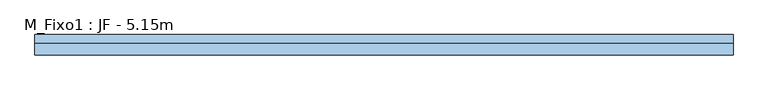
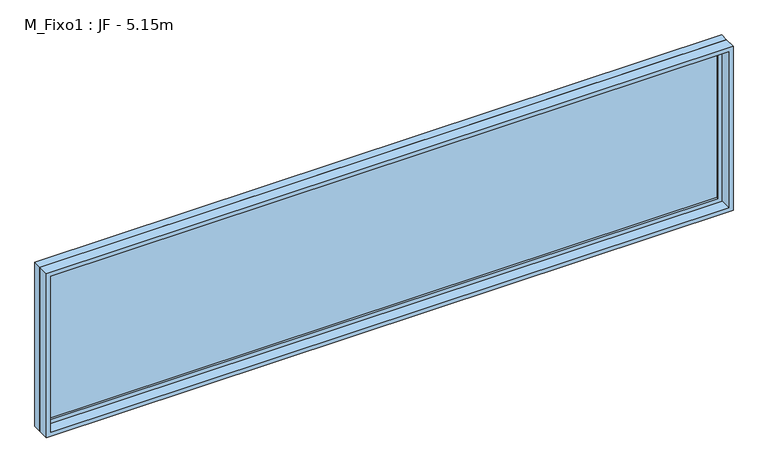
"""IFC4 building model written with IfcOpenShell, lengths in millimetres: window geometry, M_Fixo1 : JF - 5.15m."""

from ifc_helpers import new_model, si_unit, frame, origin, place, context, project, spatial, polyline, outline, extrude, source, transform, mapped, element, save


def m_fixo1_jf_5_15m_51e2bce7(model_context):
    return source(origin(), model_context, "Body", "SweptSolid", [
        extrude(outline(polyline([(-2512.0, 53.0), (2512.0, 53.0), (2512.0, 41.0), (-2512.0, 41.0), (-2512.0, 53.0)])), frame((0.0, 0.0, 978.0), z_axis=(0.0, 0.0, 1.0), x_axis=(1.0, 0.0, 0.0)), (0.0, 0.0, 1.0), 1174.0),
        extrude(outline(polyline([(2196.0, -2556.0), (934.0, -2556.0), (934.0, 2556.0), (2196.0, 2556.0), (2196.0, -2556.0)]), holes=[polyline([(2152.0, -2512.0), (2152.0, 2512.0), (978.0, 2512.0), (978.0, -2512.0), (2152.0, -2512.0)])]), frame((0.0, 25.0, 0.0), z_axis=(0.0, 1.0, 0.0), x_axis=(0.0, 0.0, 1.0)), (0.0, 0.0, 1.0), 44.0),
        extrude(outline(polyline([(2215.0, -2575.0), (915.0, -2575.0), (915.0, 2575.0), (2215.0, 2575.0), (2215.0, -2575.0)]), holes=[polyline([(2196.0, -2556.0), (2196.0, 2556.0), (934.0, 2556.0), (934.0, -2556.0), (2196.0, -2556.0)])]), frame((0.0, 25.0, 0.0), z_axis=(0.0, 1.0, 0.0), x_axis=(0.0, 0.0, 1.0)), (0.0, 0.0, 1.0), 63.0),
        extrude(outline(polyline([(2215.0, -2575.0), (915.0, -2575.0), (915.0, 2575.0), (2215.0, 2575.0), (2215.0, -2575.0)]), holes=[polyline([(2183.0, -2543.0), (2183.0, 2543.0), (947.0, 2543.0), (947.0, -2543.0), (2183.0, -2543.0)])]), frame((0.0, -62.0, 0.0), z_axis=(0.0, 1.0, 0.0), x_axis=(0.0, 0.0, 1.0)), (0.0, 0.0, 1.0), 87.0),
    ])


if __name__ == "__main__":
    model = new_model("IFC4")
    model_context = context("Model", 3, world=origin())
    ifc_project = project(units=[si_unit("LENGTHUNIT", "METRE", prefix="MILLI")], contexts=[model_context])
    site = spatial("IfcSite", under=ifc_project)
    building = spatial("IfcBuilding", under=site)
    placement = place(None, origin())
    m_fixo1_jf_5_15m_shape = m_fixo1_jf_5_15m_51e2bce7(model_context)
    element("IfcWindow", 1, ObjectType="M_Fixo1 : JF - 5.15m", at=placement, inside=building, context=model_context, shape_type="MappedRepresentation", body=[
        mapped(m_fixo1_jf_5_15m_shape, transform((0.0, 0.0, 0.0), x_axis=(1.0, 0.0, 0.0), y_axis=(0.0, 1.0, 0.0), z_axis=(0.0, 0.0, 1.0))),
    ])
    save(model, "model.ifc")
